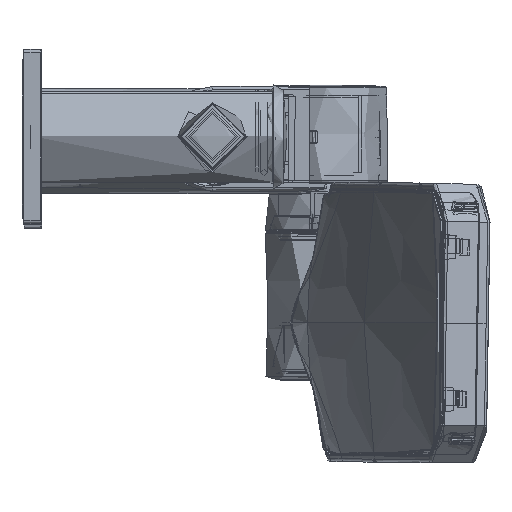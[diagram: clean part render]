
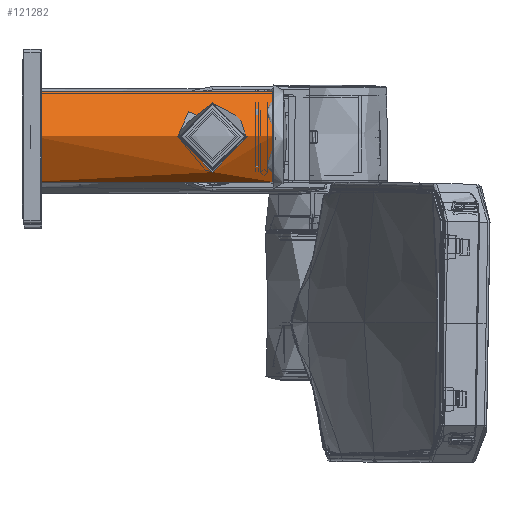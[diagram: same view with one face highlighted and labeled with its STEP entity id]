
A CAD part, top view. The second image highlights one B-rep face of the part: STEP entity #121282.
In plain terms, the highlighted cylindrical face has radius 15 mm (diameter 30 mm), a full revolution.
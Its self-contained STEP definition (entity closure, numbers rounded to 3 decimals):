
#22751=CIRCLE('',#129229,15.);
#22752=CIRCLE('',#129230,15.);
#28518=FACE_BOUND('',#38031,.T.);
#28519=FACE_BOUND('',#38032,.T.);
#28520=FACE_BOUND('',#38033,.T.);
#30162=FACE_OUTER_BOUND('',#38030,.T.);
#38030=EDGE_LOOP('',(#82545));
#38031=EDGE_LOOP('',(#82546));
#38032=EDGE_LOOP('',(#82547));
#38033=EDGE_LOOP('',(#82548));
#47421=B_SPLINE_CURVE_WITH_KNOTS('',3,(#173522,#173523,#173524,#173525,
#173526,#173527,#173528,#173529,#173530,#173531,#173532,#173533,#173534,
#173535,#173536,#173537,#173538,#173539,#173540),.UNSPECIFIED.,.T.,.F.,
(4,1,1,1,1,1,1,1,1,1,1,1,1,1,1,1,4),(-6.139,-5.701,
-5.262,-4.824,-4.385,-3.947,
-3.508,-3.216,-2.923,-2.631,
-2.339,-1.754,-1.316,-0.877,
-0.439,-0.219,0.),.UNSPECIFIED.);
#47422=B_SPLINE_CURVE_WITH_KNOTS('',3,(#173547,#173548,#173549,#173550,
#173551,#173552,#173553,#173554,#173555,#173556,#173557,#173558,#173559,
#173560,#173561,#173562,#173563,#173564,#173565,#173566),.UNSPECIFIED.,
 .T.,.F.,(4,1,1,1,1,1,1,1,1,1,1,1,1,1,1,1,1,4),(-6.139,-5.701,
-5.262,-4.824,-4.385,-3.947,
-3.508,-3.216,-2.923,-2.631,
-2.339,-2.046,-1.754,-1.316,
-0.877,-0.439,-0.219,0.),
 .UNSPECIFIED.);
#52041=VERTEX_POINT('',#173500);
#52043=VERTEX_POINT('',#173542);
#52044=VERTEX_POINT('',#173544);
#52045=VERTEX_POINT('',#173546);
#64019=EDGE_CURVE('',#52041,#52041,#47421,.T.);
#64020=EDGE_CURVE('',#52043,#52043,#22751,.T.);
#64021=EDGE_CURVE('',#52044,#52044,#22752,.T.);
#64022=EDGE_CURVE('',#52045,#52045,#47422,.T.);
#82545=ORIENTED_EDGE('',*,*,#64020,.F.);
#82546=ORIENTED_EDGE('',*,*,#64021,.F.);
#82547=ORIENTED_EDGE('',*,*,#64022,.F.);
#82548=ORIENTED_EDGE('',*,*,#64019,.F.);
#119382=CYLINDRICAL_SURFACE('',#129228,15.);
#121282=ADVANCED_FACE('',(#30162,#28518,#28519,#28520),#119382,.T.);
#129228=AXIS2_PLACEMENT_3D('',#173541,#141307,#141308);
#129229=AXIS2_PLACEMENT_3D('',#173543,#141309,#141310);
#129230=AXIS2_PLACEMENT_3D('',#173545,#141311,#141312);
#141307=DIRECTION('center_axis',(0.,0.,1.));
#141308=DIRECTION('ref_axis',(-1.,0.,0.));
#141309=DIRECTION('center_axis',(0.,0.,1.));
#141310=DIRECTION('ref_axis',(-1.,0.,0.));
#141311=DIRECTION('center_axis',(0.,0.,-1.));
#141312=DIRECTION('ref_axis',(-1.,0.,0.));
#173500=CARTESIAN_POINT('',(10.979,10.22,51.1));
#173522=CARTESIAN_POINT('Ctrl Pts',(10.979,10.22,51.101));
#173523=CARTESIAN_POINT('Ctrl Pts',(10.978,10.22,52.653));
#173524=CARTESIAN_POINT('Ctrl Pts',(11.742,9.449,55.714));
#173525=CARTESIAN_POINT('Ctrl Pts',(13.632,6.659,59.128));
#173526=CARTESIAN_POINT('Ctrl Pts',(15.05,2.489,61.229));
#173527=CARTESIAN_POINT('Ctrl Pts',(15.058,-2.483,61.234));
#173528=CARTESIAN_POINT('Ctrl Pts',(13.628,-6.654,
59.135));
#173529=CARTESIAN_POINT('Ctrl Pts',(11.959,-9.139,
56.081));
#173530=CARTESIAN_POINT('Ctrl Pts',(10.95,-10.255,
52.7));
#173531=CARTESIAN_POINT('Ctrl Pts',(10.945,-10.261,
49.503));
#173532=CARTESIAN_POINT('Ctrl Pts',(11.814,-9.292,
46.594));
#173533=CARTESIAN_POINT('Ctrl Pts',(13.388,-7.065,
43.398));
#173534=CARTESIAN_POINT('Ctrl Pts',(15.053,-3.047,
40.982));
#173535=CARTESIAN_POINT('Ctrl Pts',(15.055,2.483,40.963));
#173536=CARTESIAN_POINT('Ctrl Pts',(13.626,6.666,43.073));
#173537=CARTESIAN_POINT('Ctrl Pts',(12.061,8.983,45.931));
#173538=CARTESIAN_POINT('Ctrl Pts',(11.159,10.032,48.762));
#173539=CARTESIAN_POINT('Ctrl Pts',(10.979,10.22,50.325));
#173540=CARTESIAN_POINT('Ctrl Pts',(10.979,10.22,51.101));
#173541=CARTESIAN_POINT('Origin',(0.,0.,0.));
#173542=CARTESIAN_POINT('',(15.,0.,68.2));
#173543=CARTESIAN_POINT('Origin',(0.,0.,68.2));
#173544=CARTESIAN_POINT('',(15.,0.,0.));
#173545=CARTESIAN_POINT('Origin',(0.,0.,0.));
#173546=CARTESIAN_POINT('',(-10.979,10.22,51.1));
#173547=CARTESIAN_POINT('Ctrl Pts',(-10.979,10.22,51.099));
#173548=CARTESIAN_POINT('Ctrl Pts',(-10.978,10.22,
49.547));
#173549=CARTESIAN_POINT('Ctrl Pts',(-11.742,9.449,
46.486));
#173550=CARTESIAN_POINT('Ctrl Pts',(-13.632,6.659,
43.072));
#173551=CARTESIAN_POINT('Ctrl Pts',(-15.05,2.489,
40.971));
#173552=CARTESIAN_POINT('Ctrl Pts',(-15.058,-2.482,
40.966));
#173553=CARTESIAN_POINT('Ctrl Pts',(-13.628,-6.655,
43.065));
#173554=CARTESIAN_POINT('Ctrl Pts',(-11.959,-9.139,
46.12));
#173555=CARTESIAN_POINT('Ctrl Pts',(-10.95,-10.256,
49.499));
#173556=CARTESIAN_POINT('Ctrl Pts',(-10.945,-10.259,
52.698));
#173557=CARTESIAN_POINT('Ctrl Pts',(-11.813,-9.297,
55.601));
#173558=CARTESIAN_POINT('Ctrl Pts',(-12.997,-7.611,
58.013));
#173559=CARTESIAN_POINT('Ctrl Pts',(-14.127,-5.29,
59.865));
#173560=CARTESIAN_POINT('Ctrl Pts',(-15.053,-1.933,
61.23));
#173561=CARTESIAN_POINT('Ctrl Pts',(-15.055,2.478,
61.231));
#173562=CARTESIAN_POINT('Ctrl Pts',(-13.626,6.668,
59.13));
#173563=CARTESIAN_POINT('Ctrl Pts',(-12.061,8.983,
56.268));
#173564=CARTESIAN_POINT('Ctrl Pts',(-11.159,10.032,
53.438));
#173565=CARTESIAN_POINT('Ctrl Pts',(-10.979,10.22,
51.875));
#173566=CARTESIAN_POINT('Ctrl Pts',(-10.979,10.22,51.099));
